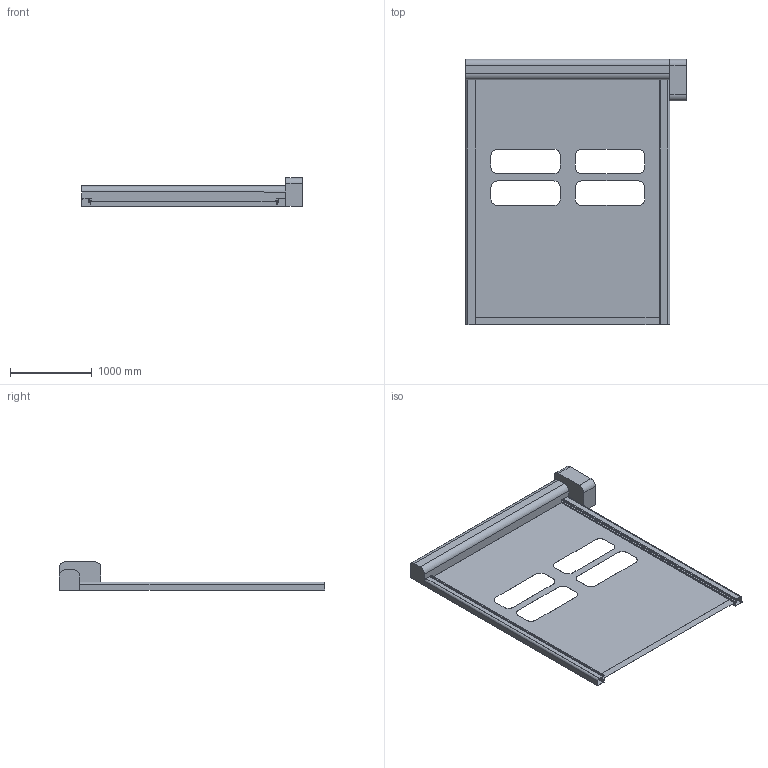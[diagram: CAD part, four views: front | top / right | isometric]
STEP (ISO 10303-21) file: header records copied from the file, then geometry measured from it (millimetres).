
FILE_DESCRIPTION (( 'STEP AP203' ), '1' );
FILE_NAME ('Dyn_Std.STEP', '2018-07-18T09:01:25', ( '' ), ( '' ), 'SwSTEP 2.0', 'SolidWorks 2018', '' );
FILE_SCHEMA (( 'CONFIG_CONTROL_DESIGN' ));
Length unit declared in the file: millimetre
Products named in the file (1): Dyn_Std
Bounding box: 2700 x 3250 x 350 mm (x, y, z)
Volume: 197290397.2 mm3; surface area: 20956185.4 mm2
Topology: 6 solids, 6 shells, 167 faces, 465 edges, 310 vertices
Faces by surface type: plane 112, cylinder 55
Entity records: 5440 total; most frequent: CARTESIAN_POINT 943, ORIENTED_EDGE 930, DIRECTION 911, EDGE_CURVE 465, LINE 355, VECTOR 355, VERTEX_POINT 310, AXIS2_PLACEMENT_3D 278
